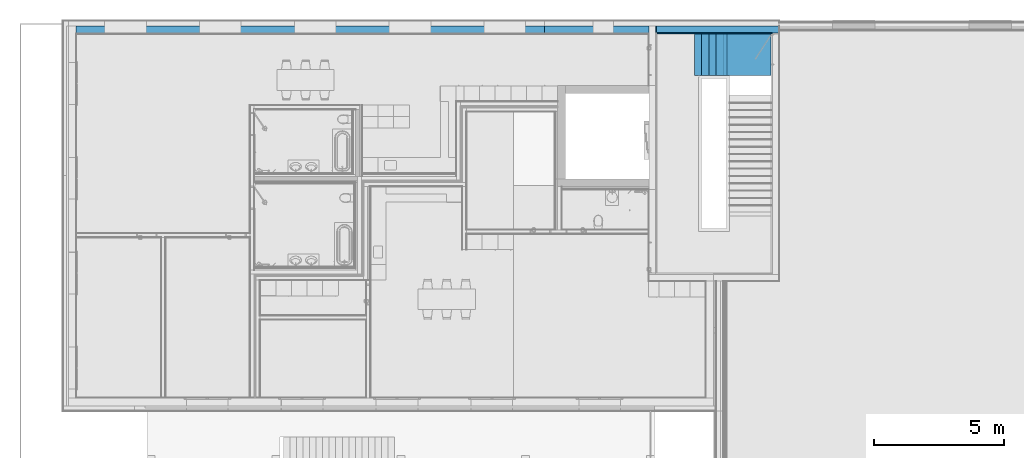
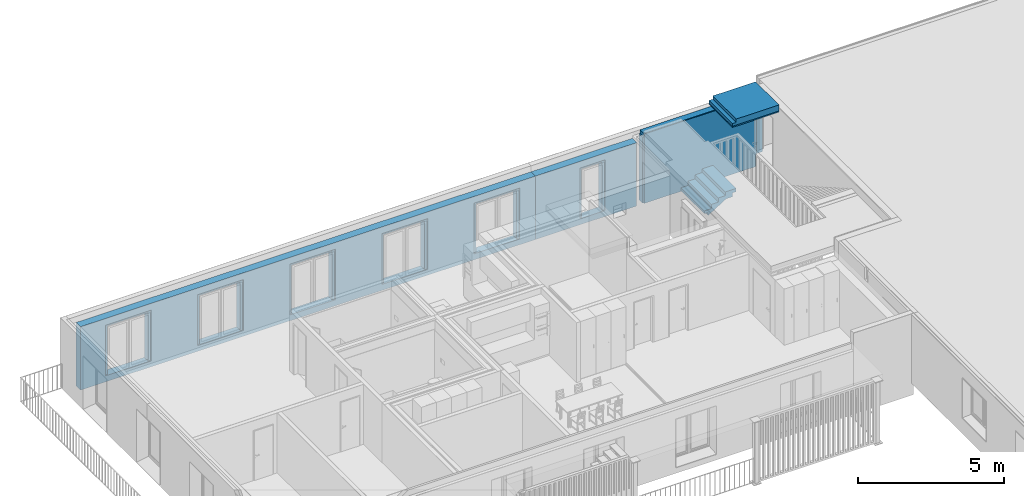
# One storey, part 17 of 34: 7 building element parts, 6 openings, 5 elements without a shape of their own.
"""IFC4 building model written with IfcOpenShell, lengths in millimetres."""

from ifc_helpers import new_model, entity, si_unit, converted_unit, derived_unit, direction, frame, origin_with_axes, place, context, subcontext, project, spatial, polygons, material, type_object, element, aggregate, save


model = new_model("IFC4")

# Units and contexts
model_context = context("Model", 3, precision=0.01, world=origin_with_axes(), true_north=direction((0.0, 1.0)))
body_context = subcontext(model_context, "Body", "Model", "MODEL_VIEW")
ifc_project = project(units=[si_unit("LENGTHUNIT", "METRE", prefix="MILLI"), si_unit("AREAUNIT", "SQUARE_METRE"), si_unit("VOLUMEUNIT", "CUBIC_METRE"), converted_unit("PLANEANGLEUNIT", "DEGREE", entity("IfcPlaneAngleMeasure", 0.0174532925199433), si_unit("PLANEANGLEUNIT", "RADIAN"), dimensions=[0, 0, 0, 0, 0, 0, 0]), converted_unit("TIMEUNIT", "Year", entity("IfcTimeMeasure", 31557600.0), si_unit("TIMEUNIT", "SECOND"), dimensions=[0, 0, 1, 0, 0, 0, 0]), si_unit("MASSUNIT", "GRAM", prefix="KILO"), si_unit("THERMODYNAMICTEMPERATUREUNIT", "DEGREE_CELSIUS"), si_unit("LUMINOUSINTENSITYUNIT", "LUMEN"), si_unit("ENERGYUNIT", "JOULE", prefix="MEGA"), derived_unit("THERMALCONDUCTANCEUNIT", [(si_unit("POWERUNIT", "WATT"), 1), (si_unit("LENGTHUNIT", "METRE"), -1), (si_unit("THERMODYNAMICTEMPERATUREUNIT", "KELVIN"), -1)]), derived_unit("SPECIFICHEATCAPACITYUNIT", [(si_unit("ENERGYUNIT", "JOULE"), 1), (si_unit("MASSUNIT", "GRAM", prefix="KILO"), -1), (si_unit("THERMODYNAMICTEMPERATUREUNIT", "KELVIN"), -1)]), derived_unit("MASSDENSITYUNIT", [(si_unit("MASSUNIT", "GRAM", prefix="KILO"), 1), (si_unit("VOLUMEUNIT", "CUBIC_METRE"), -1)])], contexts=[model_context])

# Site, building, storey
site_placement = place(None, origin_with_axes())
site = spatial("IfcSite", under=ifc_project, at=site_placement, Name="Gelände", CompositionType="ELEMENT")
building_placement = place(site_placement, origin_with_axes())
building = spatial("IfcBuilding", under=site, at=building_placement, Name="Gebäude", CompositionType="ELEMENT")
storey_placement = place(building_placement, frame((0.0, 0.0, 5799.999999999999), z_axis=(0.0, 0.0, 1.0), x_axis=(1.0, 0.0, 0.0)))
storey = spatial("IfcBuildingStorey", under=building, at=storey_placement, Name="2.OG", CompositionType="ELEMENT", Elevation=5800.0)

# Wall, opening, building element part
wall_type_1 = type_object("IfcWallType", Name="Aussenwand Typ 06 310", PredefinedType="NOTDEFINED")
wall_1_placement = place(storey_placement, frame((11428.998626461, 37427.59728131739, 0.0), z_axis=(0.0, 0.0, 1.0), x_axis=(1.0, 0.0, 0.0)))
wall_1 = element("IfcWall", 1, at=wall_1_placement, inside=storey, type_object=wall_type_1, Name="Wand-014", PredefinedType="NOTDEFINED")
opening_1_placement = place(wall_1_placement, frame((2249.998818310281, 0.0, 309.999948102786), z_axis=(0.0, 0.0, 1.0), x_axis=(1.0, 0.0, 0.0)))
element("IfcOpeningElement", 2, at=opening_1_placement, cuts=wall_1, Name="Fenster-004", context=body_context, identifier="Reference", shape_type="Tessellation", body=[
    polygons([(400.0000000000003, 310.9999999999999, 1959.999999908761), (400.0000000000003, 310.9999999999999, 1961.999999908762), (401.9999999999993, 310.9999999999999, 1961.999999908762), (401.9999999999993, 310.9999999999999, -59.99999999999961), (-401.9999999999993, 310.9999999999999, -59.99999999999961), (-401.9999999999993, 310.9999999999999, 1961.999999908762), (-400.0000000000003, 310.9999999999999, 1961.999999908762), (-400.0000000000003, 310.9999999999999, 1959.999999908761), (400.0000000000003, 310.0000000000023, 1961.999999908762), (400.0000000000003, 460.0000000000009, 1959.999999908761), (400.0000000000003, 460.0000000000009, 2249.999999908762), (400.0000000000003, 310.0000000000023, 2249.999999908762), (-400.0000000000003, 310.0000000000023, 1961.999999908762), (-401.9999999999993, 60.00000000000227, 1961.999999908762), (401.9999999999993, 60.00000000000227, 1961.999999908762), (401.9999999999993, 60.00000000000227, -59.99999999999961), (-401.9999999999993, 60.00000000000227, -59.99999999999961), (-400.0000000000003, 310.0000000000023, 2249.999999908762), (-400.0000000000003, 460.0000000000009, 2249.999999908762), (-400.0000000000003, 460.0000000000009, 1959.999999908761), (-502.0000000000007, 60.00000000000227, -59.99999999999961), (-502.0000000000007, 60.00000000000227, 2061.999999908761), (502.0000000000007, 60.00000000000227, 2061.999999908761), (502.0000000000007, 60.00000000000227, -59.99999999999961), (502.0000000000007, -0.9999999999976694, -59.99999999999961), (-502.0000000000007, -0.9999999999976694, -59.99999999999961), (-502.0000000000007, -0.9999999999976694, 2061.999999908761), (502.0000000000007, -0.9999999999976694, 2061.999999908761)], [[[1, 2, 3, 4, 5, 6, 7, 8]], [[9, 2, 1, 10, 11, 12]], [[13, 7, 6, 14, 15, 3, 2, 9]], [[15, 16, 4, 3]], [[16, 17, 5, 4]], [[17, 14, 6, 5]], [[8, 7, 13, 18, 19, 20]], [[1, 8, 20, 10]], [[20, 19, 11, 10]], [[19, 18, 12, 11]], [[13, 9, 12, 18]], [[16, 15, 14, 17, 21, 22, 23, 24]], [[17, 16, 24, 25, 26, 21]], [[22, 21, 26, 27]], [[23, 22, 27, 28]], [[24, 23, 28, 25]], [[27, 26, 25, 28]]], closed=True),
])
ifc_material_1 = material(Name="Beton bewehrt")
building_element_part_1_placement = place(wall_1_placement, origin_with_axes())
building_element_part_1 = element("IfcBuildingElementPart", 3, at=building_element_part_1_placement, material=ifc_material_1, Name="Beton bewehrt", PredefinedType="NOTDEFINED", context=body_context, shape_type="Tessellation", body=[
    polygons([(2651.998818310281, 60.00000000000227, 249.9999481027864), (2651.998818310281, 60.00000000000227, 2271.999948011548), (2651.998818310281, 310.0000000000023, 2271.999948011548), (2651.998818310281, 310.0000000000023, 249.9999481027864), (1847.998818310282, 60.00000000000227, 2271.999948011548), (2751.998818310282, 60.00000000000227, 249.9999481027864), (2751.998818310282, 60.00000000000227, 2371.999948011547), (1747.998818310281, 60.00000000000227, 2371.999948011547), (1747.998818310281, 60.00000000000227, 249.9999481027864), (1847.998818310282, 60.00000000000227, 249.9999481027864), (1847.998818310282, 310.0000000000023, 2271.999948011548), (0.0, 310.0000000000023, 0.0), (0.0, 310.0000000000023, 2650.0), (3999.998818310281, 310.0000000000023, 2650.0), (3999.998818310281, 310.0000000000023, 0.0), (1847.998818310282, 310.0000000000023, 249.9999481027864), (1747.998818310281, 9.99999999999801, 249.9999481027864), (2751.998818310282, 9.99999999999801, 249.9999481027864), (2751.998818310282, 9.99999999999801, 2371.999948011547), (1747.998818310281, 9.99999999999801, 2371.999948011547), (0.0, 9.99999999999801, 0.0), (0.0, 9.99999999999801, 2650.0), (3999.998818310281, 9.99999999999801, 2650.0), (3999.998818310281, 9.99999999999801, 0.0)], [[[1, 2, 3, 4]], [[5, 2, 1, 6, 7, 8, 9, 10]], [[2, 5, 11, 3]], [[12, 13, 14, 15], [4, 3, 11, 16]], [[10, 1, 4, 16]], [[17, 18, 6, 1, 10, 9]], [[18, 19, 7, 6]], [[19, 20, 8, 7]], [[20, 17, 9, 8]], [[5, 10, 16, 11]], [[13, 12, 21, 22]], [[13, 22, 23, 14]], [[24, 15, 14, 23]], [[21, 12, 15, 24]], [[22, 21, 24, 23], [17, 20, 19, 18]]], closed=True),
])
aggregate(wall_1, [building_element_part_1])

# Wall, openings, building element part
wall_2_placement = place(storey_placement, frame((-6861.004181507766, 37737.5972813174, 0.0), z_axis=(0.0, 0.0, 1.0), x_axis=(1.0, 0.0, 0.0)))
wall_2 = element("IfcWall", 4, at=wall_2_placement, inside=storey, type_object=wall_type_1, Name="Wand-014", PredefinedType="NOTDEFINED")
opening_2_placement = place(wall_2_placement, frame((2191.999999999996, 0.0, 309.999948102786), z_axis=(0.0, 0.0, 1.0), x_axis=(1.0, 0.0, 0.0)))
element("IfcOpeningElement", 5, at=opening_2_placement, cuts=wall_2, Name="Fenster-004", context=body_context, identifier="Reference", shape_type="Tessellation", body=[
    polygons([(800.0000000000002, 0.9999999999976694, 1959.999999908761), (800.0000000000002, 0.9999999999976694, 1961.999999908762), (802.0, 0.9999999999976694, 1961.999999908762), (802.0, 0.9999999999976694, -59.99999999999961), (-802.0000000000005, 0.9999999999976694, -59.99999999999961), (-802.0000000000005, 0.9999999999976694, 1961.999999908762), (-799.9999999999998, 0.9999999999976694, 1961.999999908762), (-799.9999999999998, 0.9999999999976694, 1959.999999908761), (800.0000000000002, 0.0, 1961.999999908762), (800.0000000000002, 149.9999999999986, 1959.999999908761), (800.0000000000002, 149.9999999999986, 2249.999999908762), (800.0000000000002, 0.0, 2249.999999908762), (-799.9999999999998, 0.0, 1961.999999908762), (-802.0000000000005, -250.0, 1961.999999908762), (802.0, -250.0, 1961.999999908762), (802.0, -250.0, -59.99999999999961), (-802.0000000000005, -250.0, -59.99999999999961), (-799.9999999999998, 0.0, 2249.999999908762), (-799.9999999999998, 149.9999999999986, 2249.999999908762), (-799.9999999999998, 149.9999999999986, 1959.999999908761), (-902.0000000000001, -250.0, -59.99999999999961), (-902.0000000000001, -250.0, 2061.999999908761), (902.0000000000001, -250.0, 2061.999999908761), (902.0000000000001, -250.0, -59.99999999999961), (902.0000000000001, -310.9999999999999, -59.99999999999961), (-902.0000000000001, -310.9999999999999, -59.99999999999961), (-902.0000000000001, -310.9999999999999, 2061.999999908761), (902.0000000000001, -310.9999999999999, 2061.999999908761)], [[[1, 2, 3, 4, 5, 6, 7, 8]], [[9, 2, 1, 10, 11, 12]], [[13, 7, 6, 14, 15, 3, 2, 9]], [[15, 16, 4, 3]], [[16, 17, 5, 4]], [[17, 14, 6, 5]], [[8, 7, 13, 18, 19, 20]], [[1, 8, 20, 10]], [[20, 19, 11, 10]], [[19, 18, 12, 11]], [[13, 9, 12, 18]], [[16, 15, 14, 17, 21, 22, 23, 24]], [[17, 16, 24, 25, 26, 21]], [[22, 21, 26, 27]], [[23, 22, 27, 28]], [[24, 23, 28, 25]], [[27, 26, 25, 28]]], closed=True),
])
opening_3_placement = place(wall_2_placement, frame((9475.999999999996, 0.0, 309.999948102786), z_axis=(0.0, 0.0, 1.0), x_axis=(1.0, 0.0, 0.0)))
element("IfcOpeningElement", 6, at=opening_3_placement, cuts=wall_2, Name="Fenster-004", context=body_context, identifier="Reference", shape_type="Tessellation", body=[
    polygons([(800.0000000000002, 0.9999999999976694, 1959.999999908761), (800.0000000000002, 0.9999999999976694, 1961.999999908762), (802.0, 0.9999999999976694, 1961.999999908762), (802.0, 0.9999999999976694, -59.99999999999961), (-802.0, 0.9999999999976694, -59.99999999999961), (-802.0, 0.9999999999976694, 1961.999999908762), (-800.0, 0.9999999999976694, 1961.999999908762), (-800.0, 0.9999999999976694, 1959.999999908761), (800.0000000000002, 0.0, 1961.999999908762), (800.0000000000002, 149.9999999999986, 1959.999999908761), (800.0000000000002, 149.9999999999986, 2249.999999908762), (800.0000000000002, 0.0, 2249.999999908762), (-800.0, 0.0, 1961.999999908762), (-802.0, -250.0, 1961.999999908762), (802.0, -250.0, 1961.999999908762), (802.0000000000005, -250.0, -59.99999999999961), (-802.0, -250.0, -59.99999999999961), (-800.0, 0.0, 2249.999999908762), (-800.0, 149.9999999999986, 2249.999999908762), (-800.0, 149.9999999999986, 1959.999999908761), (-902.0000000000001, -250.0, -59.99999999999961), (-902.0000000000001, -250.0, 2061.999999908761), (902.0000000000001, -250.0, 2061.999999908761), (902.0000000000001, -250.0, -59.99999999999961), (902.0000000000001, -310.9999999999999, -59.99999999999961), (-902.0000000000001, -310.9999999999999, -59.99999999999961), (-902.0000000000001, -310.9999999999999, 2061.999999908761), (902.0000000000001, -310.9999999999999, 2061.999999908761)], [[[1, 2, 3, 4, 5, 6, 7, 8]], [[9, 2, 1, 10, 11, 12]], [[13, 7, 6, 14, 15, 3, 2, 9]], [[15, 16, 4, 3]], [[16, 17, 5, 4]], [[17, 14, 6, 5]], [[8, 7, 13, 18, 19, 20]], [[1, 8, 20, 10]], [[20, 19, 11, 10]], [[19, 18, 12, 11]], [[13, 9, 12, 18]], [[16, 15, 14, 17, 21, 22, 23, 24]], [[17, 16, 24, 25, 26, 21]], [[22, 21, 26, 27]], [[23, 22, 27, 28]], [[24, 23, 28, 25]], [[27, 26, 25, 28]]], closed=True),
])
opening_4_placement = place(wall_2_placement, frame((5833.999999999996, 0.0, 309.999948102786), z_axis=(0.0, 0.0, 1.0), x_axis=(1.0, 0.0, 0.0)))
element("IfcOpeningElement", 7, at=opening_4_placement, cuts=wall_2, Name="Fenster-004", context=body_context, identifier="Reference", shape_type="Tessellation", body=[
    polygons([(800.0000000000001, 0.9999999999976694, 1959.999999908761), (800.0000000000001, 0.9999999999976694, 1961.999999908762), (802.0000000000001, 0.9999999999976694, 1961.999999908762), (802.0000000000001, 0.9999999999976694, -59.99999999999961), (-802.0, 0.9999999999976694, -59.99999999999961), (-802.0, 0.9999999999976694, 1961.999999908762), (-800.0000000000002, 0.9999999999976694, 1961.999999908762), (-800.0000000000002, 0.9999999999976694, 1959.999999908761), (800.0000000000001, 0.0, 1961.999999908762), (800.0000000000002, 149.9999999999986, 1959.999999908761), (800.0000000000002, 149.9999999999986, 2249.999999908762), (800.0000000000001, 0.0, 2249.999999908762), (-800.0000000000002, 0.0, 1961.999999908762), (-802.0, -250.0, 1961.999999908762), (802.0000000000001, -250.0, 1961.999999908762), (802.0000000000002, -250.0, -59.99999999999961), (-802.0, -250.0, -59.99999999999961), (-800.0000000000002, 0.0, 2249.999999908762), (-800.0, 149.9999999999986, 2249.999999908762), (-800.0, 149.9999999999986, 1959.999999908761), (-902.0000000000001, -250.0, -59.99999999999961), (-902.0000000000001, -250.0, 2061.999999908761), (902.0000000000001, -250.0, 2061.999999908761), (902.0000000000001, -250.0, -59.99999999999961), (902.0000000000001, -310.9999999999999, -59.99999999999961), (-902.0000000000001, -310.9999999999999, -59.99999999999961), (-902.0000000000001, -310.9999999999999, 2061.999999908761), (902.0000000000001, -310.9999999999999, 2061.999999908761)], [[[1, 2, 3, 4, 5, 6, 7, 8]], [[9, 2, 1, 10, 11, 12]], [[13, 7, 6, 14, 15, 3, 2, 9]], [[15, 16, 4, 3]], [[16, 17, 5, 4]], [[17, 14, 6, 5]], [[8, 7, 13, 18, 19, 20]], [[1, 8, 20, 10]], [[20, 19, 11, 10]], [[19, 18, 12, 11]], [[13, 9, 12, 18]], [[16, 15, 14, 17, 21, 22, 23, 24]], [[17, 16, 24, 25, 26, 21]], [[22, 21, 26, 27]], [[23, 22, 27, 28]], [[24, 23, 28, 25]], [[27, 26, 25, 28]]], closed=True),
])
opening_5_placement = place(wall_2_placement, frame((13118.0, 0.0, 309.999948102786), z_axis=(0.0, 0.0, 1.0), x_axis=(1.0, 0.0, 0.0)))
element("IfcOpeningElement", 8, at=opening_5_placement, cuts=wall_2, Name="Fenster-004", context=body_context, identifier="Reference", shape_type="Tessellation", body=[
    polygons([(799.9999999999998, 0.9999999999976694, 1959.999999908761), (799.9999999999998, 0.9999999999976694, 1961.999999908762), (802.0000000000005, 0.9999999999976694, 1961.999999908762), (802.0000000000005, 0.9999999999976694, -59.99999999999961), (-802.0000000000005, 0.9999999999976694, -59.99999999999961), (-802.0000000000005, 0.9999999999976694, 1961.999999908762), (-800.0000000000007, 0.9999999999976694, 1961.999999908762), (-800.0000000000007, 0.9999999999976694, 1959.999999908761), (799.9999999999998, 0.0, 1961.999999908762), (799.9999999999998, 149.9999999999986, 1959.999999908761), (799.9999999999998, 149.9999999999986, 2249.999999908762), (799.9999999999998, 0.0, 2249.999999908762), (-800.0000000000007, 0.0, 1961.999999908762), (-802.0000000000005, -250.0, 1961.999999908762), (802.0000000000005, -250.0, 1961.999999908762), (802.0000000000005, -250.0, -59.99999999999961), (-802.0000000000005, -250.0, -59.99999999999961), (-800.0000000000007, 0.0, 2249.999999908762), (-800.0000000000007, 149.9999999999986, 2249.999999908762), (-800.0000000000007, 149.9999999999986, 1959.999999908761), (-902.0000000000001, -250.0, -59.99999999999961), (-902.0000000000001, -250.0, 2061.999999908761), (902.0000000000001, -250.0, 2061.999999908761), (902.0000000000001, -250.0, -59.99999999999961), (902.0000000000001, -310.9999999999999, -59.99999999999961), (-902.0000000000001, -310.9999999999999, -59.99999999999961), (-902.0000000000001, -310.9999999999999, 2061.999999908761), (902.0000000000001, -310.9999999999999, 2061.999999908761)], [[[1, 2, 3, 4, 5, 6, 7, 8]], [[9, 2, 1, 10, 11, 12]], [[13, 7, 6, 14, 15, 3, 2, 9]], [[15, 16, 4, 3]], [[16, 17, 5, 4]], [[17, 14, 6, 5]], [[8, 7, 13, 18, 19, 20]], [[1, 8, 20, 10]], [[20, 19, 11, 10]], [[19, 18, 12, 11]], [[13, 9, 12, 18]], [[16, 15, 14, 17, 21, 22, 23, 24]], [[17, 16, 24, 25, 26, 21]], [[22, 21, 26, 27]], [[23, 22, 27, 28]], [[24, 23, 28, 25]], [[27, 26, 25, 28]]], closed=True),
])
opening_6_placement = place(wall_2_placement, frame((16759.99999999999, 0.0, 309.999948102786), z_axis=(0.0, 0.0, 1.0), x_axis=(1.0, 0.0, 0.0)))
element("IfcOpeningElement", 9, at=opening_6_placement, cuts=wall_2, Name="Fenster-004", context=body_context, identifier="Reference", shape_type="Tessellation", body=[
    polygons([(800.0000000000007, 0.9999999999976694, 1959.999999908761), (800.0000000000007, 0.9999999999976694, 1961.999999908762), (801.9999999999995, 0.9999999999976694, 1961.999999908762), (801.9999999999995, 0.9999999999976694, -59.99999999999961), (-801.9999999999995, 0.9999999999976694, -59.99999999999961), (-801.9999999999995, 0.9999999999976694, 1961.999999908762), (-799.999999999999, 0.9999999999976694, 1961.999999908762), (-799.999999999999, 0.9999999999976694, 1959.999999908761), (800.0000000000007, 0.0, 1961.999999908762), (800.0000000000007, 149.9999999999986, 1959.999999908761), (800.0000000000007, 149.9999999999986, 2249.999999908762), (800.0000000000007, 0.0, 2249.999999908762), (-799.999999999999, 0.0, 1961.999999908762), (-801.9999999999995, -250.0, 1961.999999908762), (801.9999999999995, -250.0, 1961.999999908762), (801.9999999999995, -250.0, -59.99999999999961), (-801.9999999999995, -250.0, -59.99999999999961), (-799.999999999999, 0.0, 2249.999999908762), (-799.999999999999, 149.9999999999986, 2249.999999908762), (-799.999999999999, 149.9999999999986, 1959.999999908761), (-902.000000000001, -250.0, -59.99999999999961), (-902.000000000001, -250.0, 2061.999999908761), (902.000000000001, -250.0, 2061.999999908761), (902.000000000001, -250.0, -59.99999999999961), (902.000000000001, -310.9999999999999, -59.99999999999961), (-902.000000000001, -310.9999999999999, -59.99999999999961), (-902.000000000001, -310.9999999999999, 2061.999999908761), (902.000000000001, -310.9999999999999, 2061.999999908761)], [[[1, 2, 3, 4, 5, 6, 7, 8]], [[9, 2, 1, 10, 11, 12]], [[13, 7, 6, 14, 15, 3, 2, 9]], [[15, 16, 4, 3]], [[16, 17, 5, 4]], [[17, 14, 6, 5]], [[8, 7, 13, 18, 19, 20]], [[1, 8, 20, 10]], [[20, 19, 11, 10]], [[19, 18, 12, 11]], [[13, 9, 12, 18]], [[16, 15, 14, 17, 21, 22, 23, 24]], [[17, 16, 24, 25, 26, 21]], [[22, 21, 26, 27]], [[23, 22, 27, 28]], [[24, 23, 28, 25]], [[27, 26, 25, 28]]], closed=True),
])
building_element_part_2_placement = place(wall_2_placement, origin_with_axes())
building_element_part_2 = element("IfcBuildingElementPart", 10, at=building_element_part_2_placement, material=ifc_material_1, Name="Beton bewehrt", PredefinedType="NOTDEFINED", context=body_context, shape_type="Tessellation", body=[
    polygons([(17561.99999999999, -250.0, 249.9999481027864), (17561.99999999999, -250.0, 2271.999948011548), (17561.99999999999, 0.0, 2271.999948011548), (17561.99999999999, 0.0, 249.9999481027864), (15957.99999999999, -250.0, 2271.999948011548), (17662.0, -250.0, 249.9999481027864), (17662.0, -250.0, 2371.999948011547), (15857.99999999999, -250.0, 2371.999948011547), (15857.99999999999, -250.0, 249.9999481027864), (15957.99999999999, -250.0, 249.9999481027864), (15957.99999999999, 0.0, 2271.999948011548), (299.9999999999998, 0.0, 0.0), (299.9999999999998, 0.0, 2650.0), (18290.00280796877, 0.0, 2650.0), (18290.00280796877, 0.0, 0.0), (2993.999999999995, 0.0, 249.9999481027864), (2993.999999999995, 0.0, 2271.999948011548), (1389.999999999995, 0.0, 2271.999948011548), (1389.999999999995, 0.0, 249.9999481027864), (5031.999999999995, 0.0, 2271.999948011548), (5031.999999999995, 0.0, 249.9999481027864), (6635.999999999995, 0.0, 249.9999481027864), (6635.999999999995, 0.0, 2271.999948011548), (10277.99999999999, 0.0, 249.9999481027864), (10277.99999999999, 0.0, 2271.999948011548), (8673.999999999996, 0.0, 2271.999948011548), (8673.999999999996, 0.0, 249.9999481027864), (12315.99999999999, 0.0, 2271.999948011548), (12315.99999999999, 0.0, 249.9999481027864), (13920.0, 0.0, 249.9999481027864), (13920.0, 0.0, 2271.999948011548), (15957.99999999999, 0.0, 249.9999481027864), (15857.99999999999, -299.9999999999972, 249.9999481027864), (17662.0, -299.9999999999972, 249.9999481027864), (17662.0, -299.9999999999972, 2371.999948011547), (15857.99999999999, -299.9999999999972, 2371.999948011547), (299.9999999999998, -299.9999999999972, 0.0), (299.9999999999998, -299.9999999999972, 2650.0), (18290.00280796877, -299.9999999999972, 2650.0), (18290.00280796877, -299.9999999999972, 0.0), (2993.999999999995, -250.0, 249.9999481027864), (2993.999999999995, -250.0, 2271.999948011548), (1389.999999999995, -250.0, 2271.999948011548), (1389.999999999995, -250.0, 249.9999481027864), (5031.999999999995, -250.0, 2271.999948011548), (5031.999999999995, -250.0, 249.9999481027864), (6635.999999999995, -250.0, 249.9999481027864), (6635.999999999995, -250.0, 2271.999948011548), (10277.99999999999, -250.0, 249.9999481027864), (10277.99999999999, -250.0, 2271.999948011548), (8673.999999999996, -250.0, 2271.999948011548), (8673.999999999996, -250.0, 249.9999481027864), (12315.99999999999, -250.0, 2271.999948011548), (12315.99999999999, -250.0, 249.9999481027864), (13920.0, -250.0, 249.9999481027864), (13920.0, -250.0, 2271.999948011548), (1289.999999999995, -299.9999999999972, 249.9999481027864), (1289.999999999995, -299.9999999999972, 2371.999948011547), (3093.999999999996, -299.9999999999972, 2371.999948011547), (3093.999999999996, -299.9999999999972, 249.9999481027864), (6735.999999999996, -299.9999999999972, 2371.999948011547), (6735.999999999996, -299.9999999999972, 249.9999481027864), (4931.999999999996, -299.9999999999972, 249.9999481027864), (4931.999999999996, -299.9999999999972, 2371.999948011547), (8573.999999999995, -299.9999999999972, 249.9999481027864), (8573.999999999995, -299.9999999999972, 2371.999948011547), (10378.0, -299.9999999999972, 2371.999948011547), (10378.0, -299.9999999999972, 249.9999481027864), (14020.0, -299.9999999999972, 2371.999948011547), (14020.0, -299.9999999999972, 249.9999481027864), (12216.0, -299.9999999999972, 249.9999481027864), (12216.0, -299.9999999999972, 2371.999948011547), (3093.999999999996, -250.0, 249.9999481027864), (3093.999999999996, -250.0, 2371.999948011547), (1289.999999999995, -250.0, 2371.999948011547), (1289.999999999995, -250.0, 249.9999481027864), (4931.999999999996, -250.0, 249.9999481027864), (6735.999999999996, -250.0, 249.9999481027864), (6735.999999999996, -250.0, 2371.999948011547), (4931.999999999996, -250.0, 2371.999948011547), (10378.0, -250.0, 2371.999948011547), (8573.999999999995, -250.0, 2371.999948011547), (8573.999999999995, -250.0, 249.9999481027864), (10378.0, -250.0, 249.9999481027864), (14020.0, -250.0, 249.9999481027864), (14020.0, -250.0, 2371.999948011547), (12216.0, -250.0, 2371.999948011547), (12216.0, -250.0, 249.9999481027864)], [[[1, 2, 3, 4]], [[5, 2, 1, 6, 7, 8, 9, 10]], [[2, 5, 11, 3]], [[12, 13, 14, 15], [16, 17, 18, 19], [20, 21, 22, 23], [24, 25, 26, 27], [28, 29, 30, 31], [4, 3, 11, 32]], [[10, 1, 4, 32]], [[33, 34, 6, 1, 10, 9]], [[34, 35, 7, 6]], [[35, 36, 8, 7]], [[36, 33, 9, 8]], [[5, 10, 32, 11]], [[12, 37, 38, 13]], [[13, 38, 39, 14]], [[15, 14, 39, 40]], [[37, 12, 15, 40]], [[41, 42, 17, 16]], [[42, 43, 18, 17]], [[43, 44, 19, 18]], [[44, 41, 16, 19]], [[21, 20, 45, 46]], [[22, 21, 46, 47]], [[23, 22, 47, 48]], [[20, 23, 48, 45]], [[49, 50, 25, 24]], [[50, 51, 26, 25]], [[51, 52, 27, 26]], [[52, 49, 24, 27]], [[29, 28, 53, 54]], [[30, 29, 54, 55]], [[31, 30, 55, 56]], [[28, 31, 56, 53]], [[38, 37, 40, 39], [57, 58, 59, 60], [61, 62, 63, 64], [65, 66, 67, 68], [69, 70, 71, 72], [33, 36, 35, 34]], [[43, 42, 41, 73, 74, 75, 76, 44]], [[57, 60, 73, 41, 44, 76]], [[77, 46, 45, 48, 47, 78, 79, 80]], [[63, 62, 78, 47, 46, 77]], [[81, 82, 83, 52, 51, 50, 49, 84]], [[65, 68, 84, 49, 52, 83]], [[55, 85, 86, 87, 88, 54, 53, 56]], [[71, 70, 85, 55, 54, 88]], [[58, 57, 76, 75]], [[59, 58, 75, 74]], [[60, 59, 74, 73]], [[79, 78, 62, 61]], [[77, 80, 64, 63]], [[80, 79, 61, 64]], [[66, 65, 83, 82]], [[67, 66, 82, 81]], [[68, 67, 81, 84]], [[86, 85, 70, 69]], [[88, 87, 72, 71]], [[87, 86, 69, 72]]], closed=True),
])
aggregate(wall_2, [building_element_part_2])

# Wall, building element parts
wall_type_2 = type_object("IfcWallType", Name="Aussenwand Typ 04 300", PredefinedType="NOTDEFINED")
wall_3_placement = place(storey_placement, frame((20128.99744477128, 37437.59728131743, 0.0), z_axis=(0.0, 0.0, 1.0), x_axis=(-1.0, 0.0, 0.0)))
wall_3 = element("IfcWall", 11, at=wall_3_placement, inside=storey, type_object=wall_type_2, Name="Wand-014", PredefinedType="NOTDEFINED")
ifc_material_2 = material(Name="Sichtbeton")
building_element_part_3_placement = place(wall_3_placement, origin_with_axes())
building_element_part_3 = element("IfcBuildingElementPart", 12, at=building_element_part_3_placement, material=ifc_material_2, Name="Sichtbeton", PredefinedType="NOTDEFINED", context=body_context, shape_type="Tessellation", body=[
    polygons([(4399.999999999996, 0.0, 2899.999999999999), (-39.99999999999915, 0.0, 2900.0), (-39.99999999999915, -39.99999999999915, 2900.0), (4399.999999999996, -39.99999999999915, 2899.999999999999), (0.0, 0.0, 499.9999999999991), (-39.99999999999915, 0.0, 499.9999999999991), (4399.999999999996, 0.0, 2749.999999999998), (4399.999999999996, 0.0, 0.0), (0.0, 0.0, 0.0), (-39.99999999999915, -39.99999999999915, 499.9999999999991), (0.0, -39.99999999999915, 499.9999999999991), (0.0, -39.99999999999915, 0.0), (4399.999999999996, -39.99999999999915, 0.0)], [[[1, 2, 3, 4]], [[5, 6, 2, 1, 7, 8, 9]], [[6, 10, 3, 2]], [[4, 3, 10, 11, 12, 13]], [[4, 13, 8, 7, 1]], [[11, 10, 6, 5]], [[9, 8, 13, 12]], [[9, 12, 11, 5]]], closed=True),
])
building_element_part_4_placement = place(wall_3_placement, origin_with_axes())
building_element_part_4 = element("IfcBuildingElementPart", 13, at=building_element_part_4_placement, material=ifc_material_1, Name="Beton bewehrt", PredefinedType="NOTDEFINED", context=body_context, shape_type="Tessellation", body=[
    polygons([(4399.999999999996, -39.99999999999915, 2899.999999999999), (-300.0000000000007, -39.99999999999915, 2900.0), (-300.0000000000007, -299.9999999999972, 2900.0), (4399.999999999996, -299.9999999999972, 2899.999999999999), (-39.99999999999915, -39.99999999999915, 499.9999999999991), (-300.0000000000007, -39.99999999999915, 499.9999999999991), (4399.999999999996, -39.99999999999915, 2749.999999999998), (4439.999999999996, -39.99999999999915, 2749.999999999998), (4439.999999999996, -39.99999999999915, 0.0), (-39.99999999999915, -39.99999999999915, 0.0), (-300.0000000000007, -299.9999999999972, 499.9999999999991), (-39.99999999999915, -299.9999999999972, 499.9999999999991), (-39.99999999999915, -299.9999999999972, 0.0), (4439.999999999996, -299.9999999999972, 0.0), (4439.999999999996, -299.9999999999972, 2749.999999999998), (4399.999999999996, -299.9999999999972, 2749.999999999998)], [[[1, 2, 3, 4]], [[5, 6, 2, 1, 7, 8, 9, 10]], [[6, 11, 3, 2]], [[4, 3, 11, 12, 13, 14, 15, 16]], [[16, 7, 1, 4]], [[12, 11, 6, 5]], [[16, 15, 8, 7]], [[9, 8, 15, 14]], [[10, 9, 14, 13]], [[10, 13, 12, 5]]], closed=True),
])
aggregate(wall_3, [building_element_part_3, building_element_part_4])

# Stair, building element part
stair_type = type_object("IfcStairType", Name="Treppentyp", PredefinedType="NOTDEFINED")
stair_placement = place(storey_placement, frame((17179.64157802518, 37440.27875018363, 150.0000000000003), z_axis=(0.0, 0.0, 1.0), x_axis=(-1.0, 0.0, 0.0)))
stair = element("IfcStair", 14, at=stair_placement, inside=storey, type_object=stair_type, Name="Treppe-001", PredefinedType="NOTDEFINED")
building_element_part_5_placement = place(stair_placement, origin_with_axes())
building_element_part_5 = element("IfcBuildingElementPart", 15, at=building_element_part_5_placement, PredefinedType="NOTDEFINED", context=body_context, shape_type="Tessellation", body=[
    polygons([(-1106.429394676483, 1600.0, 359.9999999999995), (-1256.429394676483, 1600.0, 359.9999999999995), (-1256.429394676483, 1600.0, 499.9999999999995), (-829.822046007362, 1600.0, 499.9999999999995), (-829.822046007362, 1600.0, 346.6666666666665), (-553.2146973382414, 1600.0, 346.6666666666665), (-553.2146973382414, 1600.0, 173.3333333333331), (-276.6073486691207, 1600.0, 173.3333333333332), (-276.6073486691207, 1600.0, 0.0), (0.0, 1600.0, 0.0), (0.0, 1600.0, -120.0), (-150.0, 1600.0, -120.0), (-150.0, 1600.0, -244.5537770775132), (-184.4048991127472, 1600.0, -222.9942781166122), (-276.6073486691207, 1600.0, -165.2165003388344), (-368.8097982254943, 1600.0, -107.4387225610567), (-461.0122477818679, 1600.0, -49.66094478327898), (-553.2146973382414, 1600.0, 8.116832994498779), (-645.4171468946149, 1600.0, 65.89461077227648), (-737.6195964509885, 1600.0, 123.6723885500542), (-829.822046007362, 1600.0, 181.450166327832), (-859.4240862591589, 1600.0, 199.9999999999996), (-1106.429394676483, 1600.0, 199.9999999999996), (-1106.429394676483, 0.0, 359.9999999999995), (-1256.429394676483, 0.0, 359.9999999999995), (-1256.429394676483, 0.0, 499.9999999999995), (-829.822046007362, 0.0, 499.9999999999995), (-829.822046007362, 0.0, 346.6666666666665), (-553.2146973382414, 0.0, 346.6666666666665), (-553.2146973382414, 0.0, 173.3333333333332), (-276.6073486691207, 0.0, 173.3333333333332), (-276.6073486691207, 0.0, 0.0), (0.0, 0.0, 0.0), (0.0, 0.0, -120.0), (-150.0, 0.0, -120.0), (-150.0, 0.0, -244.5537770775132), (-184.4048991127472, 0.0, -222.9942781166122), (-276.6073486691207, 0.0, -165.2165003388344), (-368.8097982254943, 0.0, -107.4387225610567), (-461.0122477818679, 0.0, -49.66094478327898), (-553.2146973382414, 0.0, 8.116832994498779), (-645.4171468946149, 0.0, 65.89461077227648), (-737.6195964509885, 0.0, 123.6723885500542), (-829.822046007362, 0.0, 181.450166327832), (-859.4240862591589, 0.0, 199.9999999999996), (-1106.429394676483, 0.0, 199.9999999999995)], [[[1, 2, 3, 4, 5, 6, 7, 8, 9, 10, 11, 12, 13, 14, 15, 16, 17, 18, 19, 20, 21, 22, 23]], [[2, 1, 24, 25]], [[2, 25, 26, 3]], [[3, 26, 27, 4]], [[27, 28, 5, 4]], [[29, 6, 5, 28]], [[6, 29, 30, 7]], [[31, 8, 7, 30]], [[8, 31, 32, 9]], [[33, 10, 9, 32]], [[34, 11, 10, 33]], [[12, 11, 34, 35]], [[13, 12, 35, 36]], [[13, 36, 37, 14]], [[38, 15, 14, 37]], [[39, 16, 15, 38]], [[40, 17, 16, 39]], [[41, 18, 17, 40]], [[42, 19, 18, 41]], [[43, 20, 19, 42]], [[44, 21, 20, 43]], [[22, 21, 44, 45]], [[46, 23, 22, 45]], [[1, 23, 46, 24]], [[24, 46, 45, 44, 43, 42, 41, 40, 39, 38, 37, 36, 35, 34, 33, 32, 31, 30, 29, 28, 27, 26, 25]]], closed=True),
])
aggregate(stair, [building_element_part_5])

# Plate, building element parts
plate_type = type_object("IfcPlateType", Name="Podest Typ 01 300", PredefinedType="NOTDEFINED")
plate_placement = place(storey_placement, frame((18285.42683944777, 35837.5972813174, 3550.000000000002), z_axis=(0.0, 0.0, 1.0), x_axis=(1.0, 0.0, 0.0)))
plate = element("IfcPlate", 16, at=plate_placement, inside=storey, type_object=plate_type, Name="Deckennr.-073", PredefinedType="NOTDEFINED")
building_element_part_6_placement = place(plate_placement, origin_with_axes())
building_element_part_6 = element("IfcBuildingElementPart", 17, at=building_element_part_6_placement, material=ifc_material_1, Name="Beton bewehrt", PredefinedType="NOTDEFINED", context=body_context, shape_type="Tessellation", body=[
    polygons([(0.0, 1600.000001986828, -140.0000000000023), (150.0000000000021, 1600.000001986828, -140.0000000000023), (150.0000000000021, 1600.000001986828, 0.0), (1843.570605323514, 1599.999997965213, 0.0), (1843.570605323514, 1599.999997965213, -250.0000000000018), (0.0, 1599.999997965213, -250.0000000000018), (0.0, 1.98682670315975e-06, -140.0000000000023), (150.0000000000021, 1.98682670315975e-06, -140.0000000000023), (150.0000000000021, 1.98682670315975e-06, 0.0), (1843.570605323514, 0.0, 0.0), (1843.570605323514, 0.0, -250.0000000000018), (0.0, 0.0, -250.0000000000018)], [[[1, 2, 3, 4, 5, 6]], [[2, 1, 7, 8]], [[9, 3, 2, 8]], [[3, 9, 10, 4]], [[11, 5, 4, 10]], [[11, 12, 6, 5]], [[7, 1, 6, 12]], [[8, 7, 12, 11, 10, 9]]], closed=True),
])
building_element_part_7_placement = place(plate_placement, origin_with_axes())
building_element_part_7 = element("IfcBuildingElementPart", 18, at=building_element_part_7_placement, material=ifc_material_2, Name="Sichtbeton", PredefinedType="NOTDEFINED", context=body_context, shape_type="Tessellation", body=[
    polygons([(0.0, 0.0, -250.0000000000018), (0.0, 0.0, -300.0000000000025), (1843.570605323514, 0.0, -300.0000000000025), (1843.570605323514, 0.0, -250.0000000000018), (0.0, 1599.999997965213, -250.0000000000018), (0.0, 1599.999997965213, -300.0000000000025), (1843.570605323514, 1599.999997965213, -300.0000000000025), (1843.570605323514, 1599.999997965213, -250.0000000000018)], [[[1, 2, 3, 4]], [[5, 6, 2, 1]], [[2, 6, 7, 3]], [[4, 3, 7, 8]], [[5, 1, 4, 8]], [[8, 7, 6, 5]]], closed=True),
])
aggregate(plate, [building_element_part_6, building_element_part_7])

save(model, "model.ifc")
